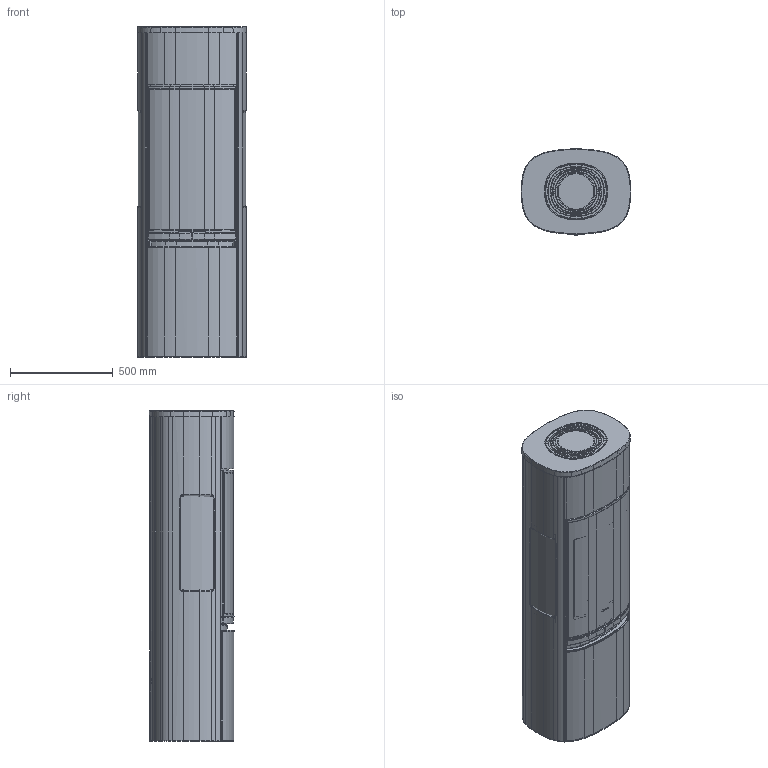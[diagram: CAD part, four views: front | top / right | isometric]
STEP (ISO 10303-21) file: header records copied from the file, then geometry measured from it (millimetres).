
FILE_DESCRIPTION(/* description */ ('Unknown'),/* implementation_level */ '2;1');
FILE_NAME(/* name */ 'DSN1111658_0_asm',/* time_stamp */ '2025-02-28T16:19:27+01:00',/* author */ ('Unknown'),/* organization */ ('NIBE AB'),/* preprocessor_version */ 'ST-DEVELOPER v18.102',/* originating_system */ 'Solid Edge',/* authorisation */ 'Unknown');
FILE_SCHEMA (('CONFIG_CONTROL_DESIGN'));
Products named in the file (13): DSN1111658; DSN1111629; DSN1111481; DSN1111509; DSN1111656; DSN1110955; DSN1111155; DSN1111118; DSN1111371; DSN1111641; DSN1111657; DSN1111410; DSN1111454
Assembly tree (14 placements, depth 2):
  DSN1111658
    DSN1111629
    DSN1111481  x2
    DSN1111509  x2
    DSN1111656
    DSN1110955
    DSN1111155
    DSN1111118
    DSN1111371
    DSN1111641
    DSN1111657
    DSN1111410
    DSN1111454
Bounding box: 534.52 x 417.01 x 1610 mm (x, y, z)
Volume: 256419589.5 mm3; surface area: 11971197.7 mm2
Topology: 14 solids, 14 shells, 1654 faces, 4298 edges, 2716 vertices
Faces by surface type: plane 446, cylinder 417, bspline 397, torus 228, cone 154, sphere 12
Full cylindrical faces by diameter (mm): 5 x5, 176.4 x1, 180.592 x1, 213.2 x1
Entity records: 80660 total; most frequent: CARTESIAN_POINT 42435, ORIENTED_EDGE 8432, DIRECTION 7194, EDGE_CURVE 4216, AXIS2_PLACEMENT_3D 2855, VERTEX_POINT 2684, FACE_BOUND 1746, EDGE_LOOP 1745
